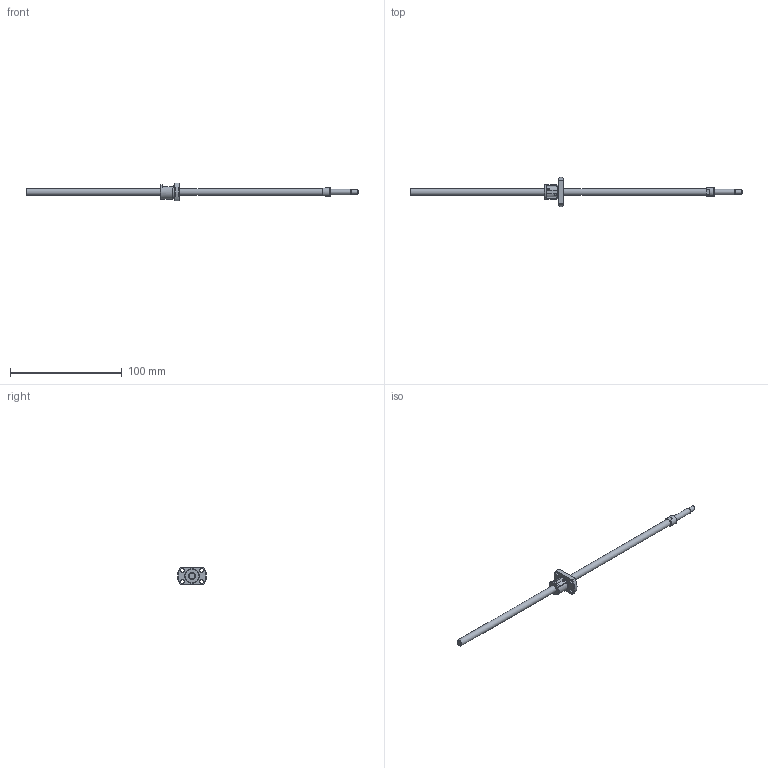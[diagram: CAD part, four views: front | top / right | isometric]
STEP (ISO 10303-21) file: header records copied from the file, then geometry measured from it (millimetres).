
FILE_DESCRIPTION(/* description */ ('STEP AP214'),/* implementation_level */ '2;1');
FILE_NAME(/* name */ 'SRT0601-261R297C7A0X(120Processing)',/* time_stamp */ '2026-08-04T17:53:36+02:00',/* author */ ('License CC BY-ND 4.0'),/* organization */ ('CADENAS'),/* preprocessor_version */ 'ST-DEVELOPER v20',/* originating_system */ 'PARTsolutions',/* authorisation */ ' ');
FILE_SCHEMA (('AUTOMOTIVE_DESIGN {1 0 10303 214 3 1 1}'));
Length unit declared in the file: millimetre
Products named in the file (3): SRT0601-261R297C7A0X(120Processing); SRT0601-261R335ACt7Processing14Shaft; SRT0601Nut
Assembly tree (2 placements, depth 2):
  SRT0601-261R297C7A0X(120Processing)
    SRT0601-261R335ACt7Processing14Shaft
    SRT0601Nut
Bounding box: 297 x 26 x 16 mm (x, y, z)
Volume: 10756.5 mm3; surface area: 7602.2 mm2
Topology: 2 solids, 2 shells, 61 faces, 155 edges, 102 vertices
Faces by surface type: plane 30, cylinder 17, cone 13, torus 1
Full cylindrical faces by diameter (mm): 1 x2, 3.4 x4, 4 x1, 5 x1, 6 x2, 8 x1, 12.5 x1, 13 x1
Entity records: 1747 total; most frequent: CARTESIAN_POINT 336, DIRECTION 288, ORIENTED_EDGE 238, AXIS2_PLACEMENT_3D 123, EDGE_CURVE 119, EDGE_LOOP 98, FACE_BOUND 98, VERTEX_POINT 89
